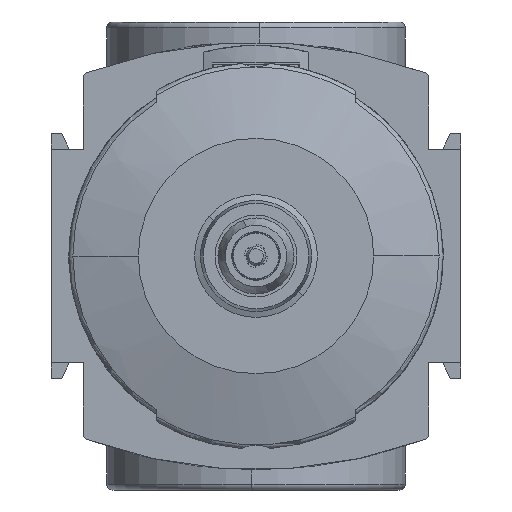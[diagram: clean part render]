
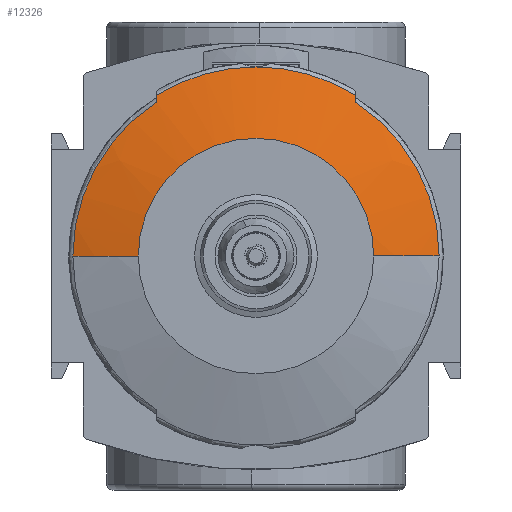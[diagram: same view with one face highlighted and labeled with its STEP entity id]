
A CAD part, front view. The second image highlights one B-rep face of the part: STEP entity #12326.
In plain terms, the highlighted spherical face has radius 102.2 mm.
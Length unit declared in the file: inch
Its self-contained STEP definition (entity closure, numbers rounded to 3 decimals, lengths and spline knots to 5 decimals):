
#9824=SPHERICAL_SURFACE('',#35244,4.02362);
#12326=ADVANCED_FACE('',(#14492),#9824,.T.);
#14492=FACE_OUTER_BOUND('',#15971,.T.);
#15971=EDGE_LOOP('',(#21343,#21344,#21345,#21346,#21347,#21348,#21349,#21350,
#21351));
#16957=CIRCLE('',#35149,3.96757);
#16959=CIRCLE('',#35154,3.96757);
#16989=CIRCLE('',#35211,1.27229);
#16991=CIRCLE('',#35218,1.23253);
#16998=CIRCLE('',#35239,4.02362);
#16999=CIRCLE('',#35240,0.79211);
#17000=CIRCLE('',#35241,4.02362);
#17001=CIRCLE('',#35242,1.23253);
#17002=CIRCLE('',#35243,1.27229);
#21343=ORIENTED_EDGE('',*,*,#28720,.F.);
#21344=ORIENTED_EDGE('',*,*,#28721,.T.);
#21345=ORIENTED_EDGE('',*,*,#28722,.T.);
#21346=ORIENTED_EDGE('',*,*,#28723,.T.);
#21347=ORIENTED_EDGE('',*,*,#28612,.T.);
#21348=ORIENTED_EDGE('',*,*,#28689,.T.);
#21349=ORIENTED_EDGE('',*,*,#28724,.T.);
#21350=ORIENTED_EDGE('',*,*,#28605,.T.);
#21351=ORIENTED_EDGE('',*,*,#28698,.T.);
#25696=VERTEX_POINT('',#50529);
#25698=VERTEX_POINT('',#50550);
#25702=VERTEX_POINT('',#50581);
#25703=VERTEX_POINT('',#50583);
#25746=VERTEX_POINT('',#50875);
#25748=VERTEX_POINT('',#50903);
#25757=VERTEX_POINT('',#50954);
#25758=VERTEX_POINT('',#50956);
#25759=VERTEX_POINT('',#50958);
#28605=EDGE_CURVE('',#25696,#25698,#16957,.T.);
#28612=EDGE_CURVE('',#25703,#25702,#16959,.T.);
#28689=EDGE_CURVE('',#25702,#25746,#16989,.T.);
#28698=EDGE_CURVE('',#25698,#25748,#16991,.T.);
#28720=EDGE_CURVE('',#25757,#25748,#16998,.T.);
#28721=EDGE_CURVE('',#25757,#25758,#16999,.T.);
#28722=EDGE_CURVE('',#25758,#25759,#17000,.T.);
#28723=EDGE_CURVE('',#25759,#25703,#17001,.T.);
#28724=EDGE_CURVE('',#25746,#25696,#17002,.T.);
#35149=AXIS2_PLACEMENT_3D('',#50551,#39597,#39598);
#35154=AXIS2_PLACEMENT_3D('',#50582,#39610,#39611);
#35211=AXIS2_PLACEMENT_3D('',#50876,#39761,#39762);
#35218=AXIS2_PLACEMENT_3D('',#50904,#39781,#39782);
#35239=AXIS2_PLACEMENT_3D('',#50953,#39837,#39838);
#35240=AXIS2_PLACEMENT_3D('',#50955,#39839,#39840);
#35241=AXIS2_PLACEMENT_3D('',#50957,#39841,#39842);
#35242=AXIS2_PLACEMENT_3D('',#50959,#39843,#39844);
#35243=AXIS2_PLACEMENT_3D('',#50960,#39845,#39846);
#35244=AXIS2_PLACEMENT_3D('',#50961,#39847,#39848);
#39597=DIRECTION('',(1.,0.,0.));
#39598=DIRECTION('',(0.,0.,-1.));
#39610=DIRECTION('',(-1.,0.,0.));
#39611=DIRECTION('',(0.,0.,1.));
#39761=DIRECTION('',(0.,-1.,0.));
#39762=DIRECTION('',(0.,0.,1.));
#39781=DIRECTION('',(0.,-1.,0.));
#39782=DIRECTION('',(0.,0.,1.));
#39837=DIRECTION('',(0.,0.,-1.));
#39838=DIRECTION('',(-1.,0.,0.));
#39839=DIRECTION('',(0.,1.,0.));
#39840=DIRECTION('',(0.,0.,1.));
#39841=DIRECTION('',(0.,0.,1.));
#39842=DIRECTION('',(1.,0.,0.));
#39843=DIRECTION('',(0.,-1.,0.));
#39844=DIRECTION('',(0.,0.,1.));
#39845=DIRECTION('',(0.,-1.,0.));
#39846=DIRECTION('',(0.,0.,1.));
#39847=DIRECTION('',(0.,0.,1.));
#39848=DIRECTION('',(1.,0.,0.));
#50529=CARTESIAN_POINT('',(-0.66929,-3.62032,1.08202));
#50550=CARTESIAN_POINT('',(-0.66929,-3.63335,1.03498));
#50551=CARTESIAN_POINT('',(-0.66929,0.19685,0.));
#50581=CARTESIAN_POINT('',(0.66929,-3.62032,1.08202));
#50582=CARTESIAN_POINT('',(0.66929,0.19685,0.));
#50583=CARTESIAN_POINT('',(0.66929,-3.63335,1.03498));
#50875=CARTESIAN_POINT('',(0.,-3.62032,1.27229));
#50876=CARTESIAN_POINT('',(0.,-3.62032,0.));
#50903=CARTESIAN_POINT('',(-1.23253,-3.63335,0.));
#50904=CARTESIAN_POINT('',(0.,-3.63335,0.));
#50953=CARTESIAN_POINT('',(0.,0.19685,0.));
#50954=CARTESIAN_POINT('',(-0.79211,-3.74803,0.));
#50955=CARTESIAN_POINT('',(0.,-3.74803,0.));
#50956=CARTESIAN_POINT('',(0.79211,-3.74803,0.));
#50957=CARTESIAN_POINT('',(0.,0.19685,0.));
#50958=CARTESIAN_POINT('',(1.23253,-3.63335,0.));
#50959=CARTESIAN_POINT('',(0.,-3.63335,0.));
#50960=CARTESIAN_POINT('',(0.,-3.62032,0.));
#50961=CARTESIAN_POINT('',(0.,0.19685,0.));
